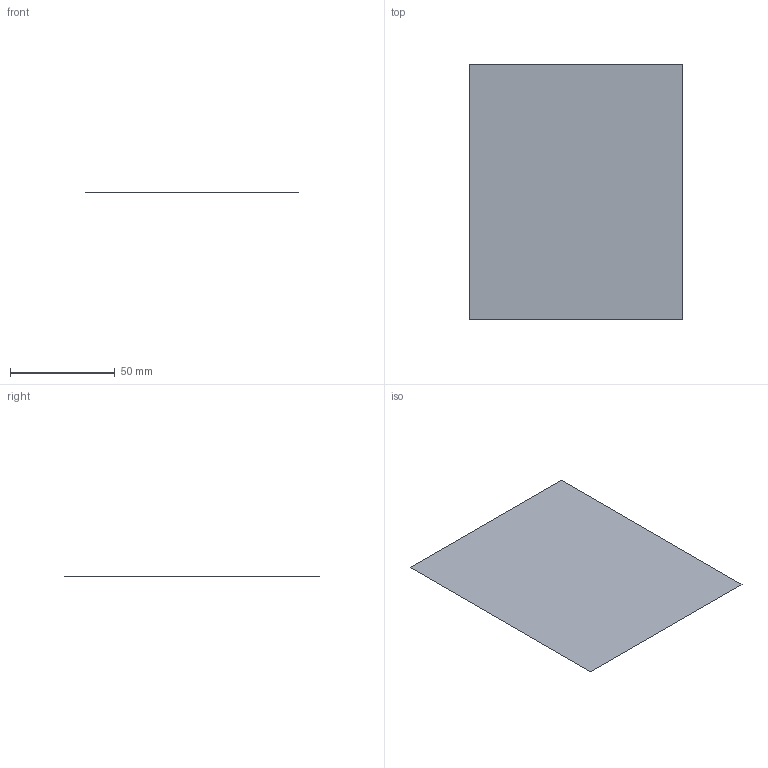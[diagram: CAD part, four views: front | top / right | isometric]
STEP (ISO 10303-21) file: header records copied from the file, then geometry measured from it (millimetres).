
FILE_DESCRIPTION(('CATIA V5 STEP Exchange'),'2;1');
FILE_NAME('C:\_Andres\UNIVERSIDAD\IQS\ASIGNATURAS\DAO\EXF\EXF-15161c\1original\Hoque_Tumanguil_Ej06-calculo_v12.stp','2016-03-04T20:57:42+00:00',('none'),('none'),'CATIA Version 5 Release 20 SP 1 (IN-10)','CATIA V5 STEP AP203','none');
FILE_SCHEMA(('CONFIG_CONTROL_DESIGN'));
Length unit declared in the file: millimetre
Products named in the file (1): Hoque_Tumanguil_Ej06-calculo_v12
Bounding box: 102 x 122 x 0 mm (x, y, z)
Surface area: 12444 mm2 (no closed solid volume)
Topology: 0 solids, 1 shells, 1 faces, 8 edges, 9 vertices
Faces by surface type: plane 1
Entity records: 130 total; most frequent: CARTESIAN_POINT 23, DIRECTION 12, VECTOR 8, LINE 8, COMPOSITE_CURVE_SEGMENT 4, ORIENTED_EDGE 4, CC_DESIGN_PERSON_AND_ORGANIZATION_ASSIGNMENT 4, PERSON_AND_ORGANIZATION_ROLE 4
